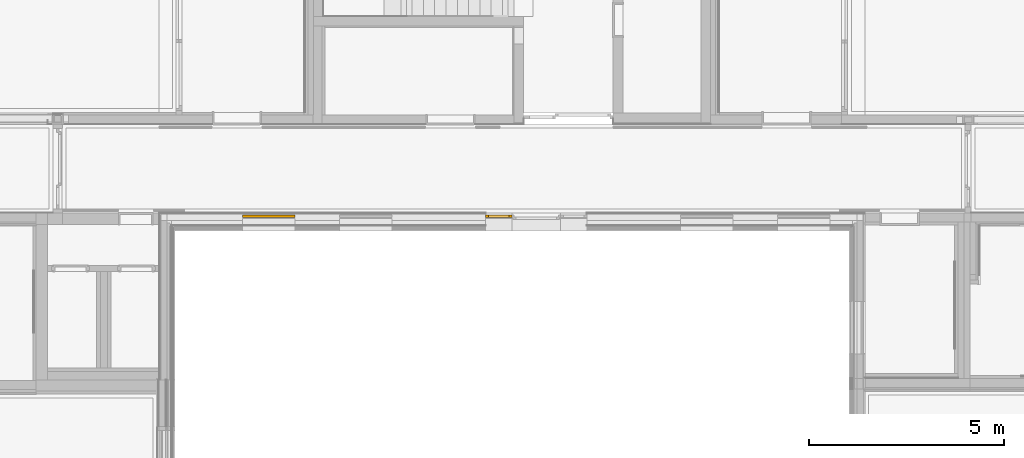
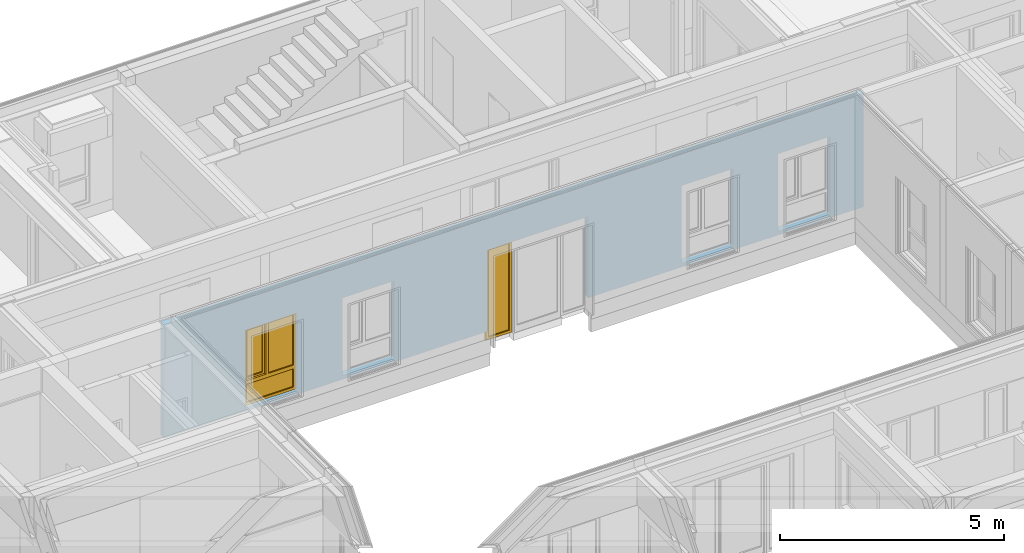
# One storey, part 107 of 207: 2 windows, 7 openings, plus 1 element that does not belong to this part.
"""IFC4 building model written with IfcOpenShell, lengths in metres."""

from ifc_helpers import new_model, entity, si_unit, converted_unit, derived_unit, frame, frame_2d, origin, origin_with_axes, place, context, subcontext, project, spatial, polyline, rectangle, outline, extrude, closed_shell, open_shell, surface_model, source, transform, mapped, material, element, fill, save


model = new_model("IFC4")

# Units and contexts
model_context = context("Model", 3, precision=1e-05, world=origin())
body_context = subcontext(model_context, "Body", "Model", "MODEL_VIEW")
ifc_project = project(units=[si_unit("LENGTHUNIT", "METRE"), si_unit("AREAUNIT", "SQUARE_METRE"), si_unit("VOLUMEUNIT", "CUBIC_METRE"), si_unit("MASSUNIT", "GRAM", prefix="KILO"), converted_unit("PLANEANGLEUNIT", "DEGREE", entity("IfcPlaneAngleMeasure", 0.0174532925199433), si_unit("PLANEANGLEUNIT", "RADIAN"), dimensions=[0, 0, 0, 0, 0, 0, 0]), derived_unit("THERMALTRANSMITTANCEUNIT", [(si_unit("POWERUNIT", "WATT"), 1), (si_unit("THERMODYNAMICTEMPERATUREUNIT", "KELVIN"), -1), (si_unit("LENGTHUNIT", "METRE"), -2)]), derived_unit("VOLUMETRICFLOWRATEUNIT", [(si_unit("LENGTHUNIT", "METRE"), 3), (converted_unit("TIMEUNIT", "hour", entity("IfcTimeMeasure", 3600.0), si_unit("TIMEUNIT", "SECOND"), dimensions=[0, 0, 1, 0, 0, 0, 0]), -1), (si_unit("LENGTHUNIT", "METRE"), -1)])], contexts=[model_context])

# Site, building, storey
site_placement = place(None, origin())
site = spatial("IfcSite", under=ifc_project, at=site_placement, Name="Psychiatrie Neubau Wunstorf", CompositionType="ELEMENT")
building_placement = place(site_placement, origin())
building = spatial("IfcBuilding", under=site, at=building_placement, Name="Neubau H2 Stationsgebäude", CompositionType="ELEMENT")
storey_placement = place(building_placement, frame((0.0, 0.0, -0.2)))
storey = spatial("IfcBuildingStorey", under=building, at=storey_placement, Name="H2 Ebene 0", CompositionType="ELEMENT", Elevation=-0.2)

# Wall, openings, windows
ifc_material = material(Name="WA-HD")
wall_placement = place(storey_placement, frame((62.0250000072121, 20.5499980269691, 0.5), z_axis=(0.0, 0.0, 1.0), x_axis=(-1.0, 8.06200289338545e-16, 0.0)))
wall = element("IfcWall", 1, at=wall_placement, inside=storey, material=ifc_material, context=body_context, shape_type="SweptSolid", body=[
    extrude(rectangle(XDim=18.0500000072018, YDim=0.16, at=frame_2d((9.02500000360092, 0.08), x_axis=(1.0, 0.0))), origin_with_axes(), (0.0, 0.0, 1.0), 3.1),
])
opening_1_placement = place(wall_placement, frame((7.77738818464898, 0.159999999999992, -0.3), z_axis=(0.0, -1.0, 0.0), x_axis=(0.0, 0.0, 1.0)))
element("IfcOpeningElement", 2, at=opening_1_placement, cuts=wall, Name="Fensteröffnung", ObjectType="Opening", context=body_context, shape_type="SweptSolid", body=[
    extrude(outline(polyline([(2.52, 0.675), (2.52, 0.0), (0.0, 0.0), (0.0, 0.675), (2.52, 0.675)])), origin_with_axes(), (0.0, 0.0, 1.0), 0.159999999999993),
])
opening_2_placement = place(wall_placement, frame((2.202388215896, 0.159999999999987, 0.1), z_axis=(0.0, -1.0, 0.0), x_axis=(0.0, 0.0, 1.0)))
element("IfcOpeningElement", 3, at=opening_2_placement, cuts=wall, Name="Fensteröffnung", ObjectType="Opening", context=body_context, shape_type="SweptSolid", body=[
    extrude(outline(polyline([(2.12, 1.35), (2.12, 0.0), (0.0, 0.0), (0.0, 1.35), (2.12, 1.35)])), origin_with_axes(), (0.0, 0.0, 1.0), 0.159999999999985),
])
opening_3_placement = place(wall_placement, frame((4.702388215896, 0.159999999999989, 0.1), z_axis=(0.0, -1.0, 0.0), x_axis=(0.0, 0.0, 1.0)))
element("IfcOpeningElement", 4, at=opening_3_placement, cuts=wall, Name="Fensteröffnung", ObjectType="Opening", context=body_context, shape_type="SweptSolid", body=[
    extrude(outline(polyline([(2.12, 1.35), (2.12, 0.0), (0.0, 0.0), (0.0, 1.35), (2.12, 1.35)])), origin_with_axes(), (0.0, 0.0, 1.0), 0.159999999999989),
])
opening_4_placement = place(wall_placement, frame((13.452388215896, 0.159999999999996, 0.1), z_axis=(0.0, -1.0, 0.0), x_axis=(0.0, 0.0, 1.0)))
element("IfcOpeningElement", 5, at=opening_4_placement, cuts=wall, Name="Fensteröffnung", ObjectType="Opening", context=body_context, shape_type="SweptSolid", body=[
    extrude(outline(polyline([(2.12, 1.35), (2.12, 0.0), (0.0, 0.0), (0.0, 1.35), (2.12, 1.35)])), origin_with_axes(), (0.0, 0.0, 1.0), 0.159999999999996),
])
opening_5_placement = place(wall_placement, frame((15.9523882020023, 0.159999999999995, 0.1), z_axis=(0.0, -1.0, 0.0), x_axis=(0.0, 0.0, 1.0)))
opening_5 = element("IfcOpeningElement", 6, at=opening_5_placement, cuts=wall, Name="Fensteröffnung", ObjectType="Opening", context=body_context, shape_type="SweptSolid", body=[
    extrude(outline(polyline([(2.12, 1.35), (2.12, 0.0), (0.0, 0.0), (0.0, 1.35), (2.12, 1.35)])), origin_with_axes(), (0.0, 0.0, 1.0), 0.16),
])
opening_6_placement = place(wall_placement, frame((9.027388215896, 0.159999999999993, -0.5), z_axis=(0.0, -1.0, 0.0), x_axis=(0.0, 0.0, 1.0)))
element("IfcOpeningElement", 7, at=opening_6_placement, cuts=wall, Name="Türöffnung", ObjectType="Opening", context=body_context, shape_type="SweptSolid", body=[
    extrude(outline(polyline([(2.72, 1.25), (2.72, 0.0), (0.0, 0.0), (0.0, 1.25), (2.72, 1.25)])), origin_with_axes(), (0.0, 0.0, 1.0), 0.159999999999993),
])
opening_7_placement = place(wall_placement, frame((9.702388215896, 0.159999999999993, -0.3), z_axis=(0.0, -1.0, 0.0), x_axis=(0.0, 0.0, 1.0)))
opening_7 = element("IfcOpeningElement", 8, at=opening_7_placement, cuts=wall, Name="Fensteröffnung", ObjectType="Opening", context=body_context, shape_type="SweptSolid", body=[
    extrude(outline(polyline([(2.52, 0.675), (2.52, 0.0), (0.0, 0.0), (0.0, 0.675), (2.52, 0.675)])), origin_with_axes(), (0.0, 0.0, 1.0), 0.159999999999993),
])
shared_shape_1 = source(origin_with_axes(), body_context, "Body", "SurfaceModel", [
    surface_model("IfcShellBasedSurfaceModel", [(1.35, -0.000199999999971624, 2.12), (1.35, -0.000199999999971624, 0.0), (1.28, -0.000199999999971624, 0.0), (1.28, -0.000199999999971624, 2.12), (1.35, 0.0698000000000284, 0.0), (1.35, 0.0698000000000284, 2.12), (1.28, 0.0698000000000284, 2.12), (1.28, 0.0698000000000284, 0.0)], [closed_shell([[[0, 1, 2, 3]], [[4, 5, 6, 7]], [[1, 0, 5, 4]], [[2, 1, 4, 7]], [[3, 2, 7, 6]], [[0, 3, 6, 5]]], orient=[[False], [False], [False], [False], [False], [False]])]),
    surface_model("IfcShellBasedSurfaceModel", [(0.07, -0.000199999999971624, 2.12), (0.07, -0.000199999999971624, 0.0), (0.0, -0.000199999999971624, 0.0), (0.0, -0.000199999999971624, 2.12), (0.07, 0.0698000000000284, 0.0), (0.07, 0.0698000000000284, 2.12), (0.0, 0.0698000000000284, 2.12), (0.0, 0.0698000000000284, 0.0)], [closed_shell([[[0, 1, 2, 3]], [[4, 5, 6, 7]], [[1, 0, 5, 4]], [[2, 1, 4, 7]], [[3, 2, 7, 6]], [[0, 3, 6, 5]]], orient=[[False], [False], [False], [False], [False], [False]])]),
    surface_model("IfcShellBasedSurfaceModel", [(1.28, -0.000199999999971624, 0.07), (1.28, -0.000199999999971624, 0.0), (0.07, -0.000199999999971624, 0.0), (0.07, -0.000199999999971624, 0.07), (1.28, 0.0698000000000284, 0.0), (1.28, 0.0698000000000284, 0.07), (0.07, 0.0698000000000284, 0.07), (0.07, 0.0698000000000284, 0.0)], [closed_shell([[[0, 1, 2, 3]], [[4, 5, 6, 7]], [[1, 0, 5, 4]], [[2, 1, 4, 7]], [[3, 2, 7, 6]], [[0, 3, 6, 5]]], orient=[[False], [False], [False], [False], [False], [False]])]),
    surface_model("IfcShellBasedSurfaceModel", [(1.28, -0.000199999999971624, 2.12), (1.28, -0.000199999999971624, 2.05), (0.07, -0.000199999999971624, 2.05), (0.07, -0.000199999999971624, 2.12), (1.28, 0.0698000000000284, 2.05), (1.28, 0.0698000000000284, 2.12), (0.07, 0.0698000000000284, 2.12), (0.07, 0.0698000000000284, 2.05)], [closed_shell([[[0, 1, 2, 3]], [[4, 5, 6, 7]], [[1, 0, 5, 4]], [[2, 1, 4, 7]], [[3, 2, 7, 6]], [[0, 3, 6, 5]]], orient=[[False], [False], [False], [False], [False], [False]])]),
    surface_model("IfcShellBasedSurfaceModel", [(1.28, -0.000199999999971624, 0.67), (1.28, -0.000199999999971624, 0.57), (0.07, -0.000199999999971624, 0.57), (0.07, -0.000199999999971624, 0.67), (1.28, 0.0698000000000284, 0.57), (1.28, 0.0698000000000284, 0.67), (0.07, 0.0698000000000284, 0.67), (0.07, 0.0698000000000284, 0.57)], [closed_shell([[[0, 1, 2, 3]], [[4, 5, 6, 7]], [[1, 0, 5, 4]], [[2, 1, 4, 7]], [[3, 2, 7, 6]], [[0, 3, 6, 5]]], orient=[[False], [False], [False], [False], [False], [False]])]),
    surface_model("IfcShellBasedSurfaceModel", [(1.28, 0.0348000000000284, 0.07), (0.07, 0.0348000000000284, 0.07), (0.07, 0.0348000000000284, 0.57), (1.28, 0.0348000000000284, 0.57)], [open_shell([[[0, 1, 2, 3]]], orient=[[False]])]),
    surface_model("IfcShellBasedSurfaceModel", [(0.78, -0.000199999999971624, 2.05), (0.78, -0.000199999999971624, 0.67), (0.71, -0.000199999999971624, 0.67), (0.71, -0.000199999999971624, 2.05), (0.78, 0.0698000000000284, 0.67), (0.78, 0.0698000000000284, 2.05), (0.71, 0.0698000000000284, 2.05), (0.71, 0.0698000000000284, 0.67)], [closed_shell([[[0, 1, 2, 3]], [[4, 5, 6, 7]], [[1, 0, 5, 4]], [[2, 1, 4, 7]], [[3, 2, 7, 6]], [[0, 3, 6, 5]]], orient=[[False], [False], [False], [False], [False], [False]])]),
    surface_model("IfcShellBasedSurfaceModel", [(1.3, -0.0501999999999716, 2.07), (1.3, -0.0501999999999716, 0.65), (1.23, -0.0501999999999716, 0.65), (1.23, -0.0501999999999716, 2.07), (1.3, 0.0198000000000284, 0.65), (1.3, 0.0198000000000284, 2.07), (1.23, 0.0198000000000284, 2.07), (1.23, 0.0198000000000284, 0.65)], [closed_shell([[[0, 1, 2, 3]], [[4, 5, 6, 7]], [[1, 0, 5, 4]], [[2, 1, 4, 7]], [[3, 2, 7, 6]], [[0, 3, 6, 5]]], orient=[[False], [False], [False], [False], [False], [False]])]),
    surface_model("IfcShellBasedSurfaceModel", [(0.83, -0.0501999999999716, 2.07), (0.83, -0.0501999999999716, 0.65), (0.76, -0.0501999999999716, 0.65), (0.76, -0.0501999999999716, 2.07), (0.83, 0.0198000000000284, 0.65), (0.83, 0.0198000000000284, 2.07), (0.76, 0.0198000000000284, 2.07), (0.76, 0.0198000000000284, 0.65)], [closed_shell([[[0, 1, 2, 3]], [[4, 5, 6, 7]], [[1, 0, 5, 4]], [[2, 1, 4, 7]], [[3, 2, 7, 6]], [[0, 3, 6, 5]]], orient=[[False], [False], [False], [False], [False], [False]])]),
    surface_model("IfcShellBasedSurfaceModel", [(1.23, -0.0501999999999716, 0.72), (1.23, -0.0501999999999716, 0.65), (0.83, -0.0501999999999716, 0.65), (0.83, -0.0501999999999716, 0.72), (1.23, 0.0198000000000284, 0.65), (1.23, 0.0198000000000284, 0.72), (0.83, 0.0198000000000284, 0.72), (0.83, 0.0198000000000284, 0.65)], [closed_shell([[[0, 1, 2, 3]], [[4, 5, 6, 7]], [[1, 0, 5, 4]], [[2, 1, 4, 7]], [[3, 2, 7, 6]], [[0, 3, 6, 5]]], orient=[[False], [False], [False], [False], [False], [False]])]),
    surface_model("IfcShellBasedSurfaceModel", [(1.23, -0.0501999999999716, 2.07), (1.23, -0.0501999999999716, 2.0), (0.83, -0.0501999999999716, 2.0), (0.83, -0.0501999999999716, 2.07), (1.23, 0.0198000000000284, 2.0), (1.23, 0.0198000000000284, 2.07), (0.83, 0.0198000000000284, 2.07), (0.83, 0.0198000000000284, 2.0)], [closed_shell([[[0, 1, 2, 3]], [[4, 5, 6, 7]], [[1, 0, 5, 4]], [[2, 1, 4, 7]], [[3, 2, 7, 6]], [[0, 3, 6, 5]]], orient=[[False], [False], [False], [False], [False], [False]])]),
    surface_model("IfcShellBasedSurfaceModel", [(0.71, 0.0348000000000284, 0.67), (0.07, 0.0348000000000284, 0.67), (0.07, 0.0348000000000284, 2.05), (0.71, 0.0348000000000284, 2.05)], [open_shell([[[0, 1, 2, 3]]], orient=[[False]])]),
    surface_model("IfcShellBasedSurfaceModel", [(1.23, -0.0151999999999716, 0.72), (0.83, -0.0151999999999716, 0.72), (0.83, -0.0151999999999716, 2.0), (1.23, -0.0151999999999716, 2.0)], [open_shell([[[0, 1, 2, 3]]], orient=[[False]])]),
])
window_1_placement = place(opening_5_placement, frame((0.0, 1.35, 0.146000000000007), z_axis=(1.0, 0.0, 0.0), x_axis=(0.0, -1.0, -8.06200289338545e-16)))
window_1 = element("IfcWindow", 9, at=window_1_placement, inside=storey, Name="Fenster", OverallHeight=2.12, OverallWidth=1.35, PartitioningType="USERDEFINED", PredefinedType="WINDOW", context=body_context, shape_type="MappedRepresentation", body=[
    mapped(shared_shape_1, transform((0.0, 0.0, 0.0), x_axis=(1.0, 0.0, 0.0), y_axis=(0.0, 1.0, 0.0), z_axis=(0.0, 0.0, 1.0), scale=1.0)),
])
fill(opening_5, window_1)
shared_shape_2 = source(origin_with_axes(), body_context, "Body", "SurfaceModel", [
    surface_model("IfcShellBasedSurfaceModel", [(0.675, 0.0, 2.52), (0.675, 0.0, 0.0), (0.605, 0.0, 0.0), (0.605, 0.0, 2.52), (0.675, 0.07, 0.0), (0.675, 0.07, 2.52), (0.605, 0.07, 2.52), (0.605, 0.07, 0.0)], [closed_shell([[[0, 1, 2, 3]], [[4, 5, 6, 7]], [[1, 0, 5, 4]], [[2, 1, 4, 7]], [[3, 2, 7, 6]], [[0, 3, 6, 5]]], orient=[[False], [False], [False], [False], [False], [False]])]),
    surface_model("IfcShellBasedSurfaceModel", [(0.07, 0.0, 2.52), (0.07, 0.0, 0.0), (0.0, 0.0, 0.0), (0.0, 0.0, 2.52), (0.07, 0.07, 0.0), (0.07, 0.07, 2.52), (0.0, 0.07, 2.52), (0.0, 0.07, 0.0)], [closed_shell([[[0, 1, 2, 3]], [[4, 5, 6, 7]], [[1, 0, 5, 4]], [[2, 1, 4, 7]], [[3, 2, 7, 6]], [[0, 3, 6, 5]]], orient=[[False], [False], [False], [False], [False], [False]])]),
    surface_model("IfcShellBasedSurfaceModel", [(0.605, 0.0, 0.07), (0.605, 0.0, 0.0), (0.07, 0.0, 0.0), (0.07, 0.0, 0.07), (0.605, 0.07, 0.0), (0.605, 0.07, 0.07), (0.07, 0.07, 0.07), (0.07, 0.07, 0.0)], [closed_shell([[[0, 1, 2, 3]], [[4, 5, 6, 7]], [[1, 0, 5, 4]], [[2, 1, 4, 7]], [[3, 2, 7, 6]], [[0, 3, 6, 5]]], orient=[[False], [False], [False], [False], [False], [False]])]),
    surface_model("IfcShellBasedSurfaceModel", [(0.605, 0.0, 2.52), (0.605, 0.0, 2.45), (0.07, 0.0, 2.45), (0.07, 0.0, 2.52), (0.605, 0.07, 2.45), (0.605, 0.07, 2.52), (0.07, 0.07, 2.52), (0.07, 0.07, 2.45)], [closed_shell([[[0, 1, 2, 3]], [[4, 5, 6, 7]], [[1, 0, 5, 4]], [[2, 1, 4, 7]], [[3, 2, 7, 6]], [[0, 3, 6, 5]]], orient=[[False], [False], [False], [False], [False], [False]])]),
    surface_model("IfcShellBasedSurfaceModel", [(0.605, 0.035, 0.07), (0.07, 0.035, 0.07), (0.07, 0.035, 2.45), (0.605, 0.035, 2.45)], [open_shell([[[0, 1, 2, 3]]], orient=[[False]])]),
])
window_2_placement = place(opening_7_placement, frame((0.0, 0.0, 0.0759999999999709), z_axis=(1.0, 0.0, 0.0), x_axis=(0.0, 1.0, 8.06200289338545e-16)))
window_2 = element("IfcWindow", 10, at=window_2_placement, inside=storey, Name="Fenster", OverallHeight=2.52, OverallWidth=0.675, PartitioningType="USERDEFINED", PredefinedType="WINDOW", context=body_context, shape_type="MappedRepresentation", body=[
    mapped(shared_shape_2, transform((0.0, 0.0, 0.0), x_axis=(1.0, 0.0, 0.0), y_axis=(0.0, 1.0, 0.0), z_axis=(0.0, 0.0, 1.0), scale=1.0)),
])
fill(opening_7, window_2)

save(model, "model.ifc")
